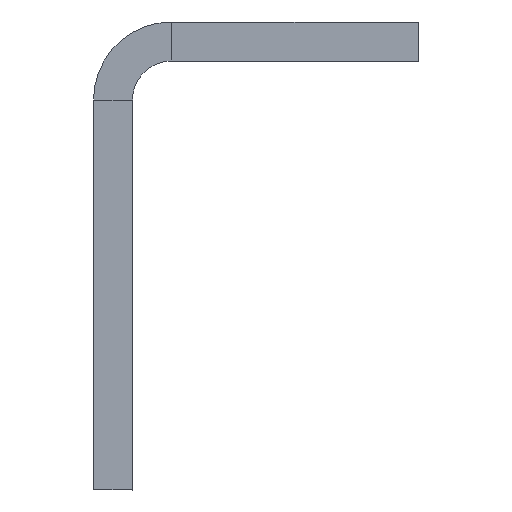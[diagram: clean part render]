
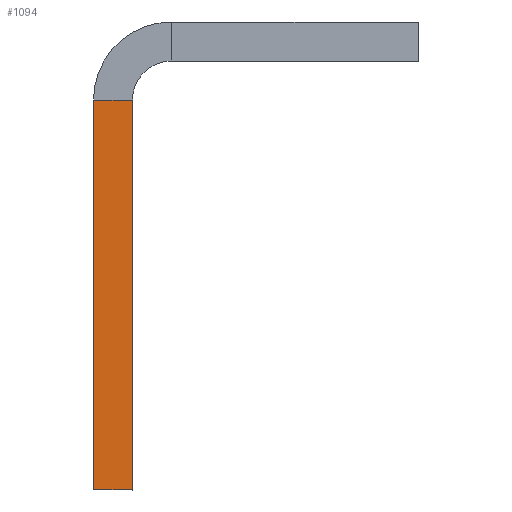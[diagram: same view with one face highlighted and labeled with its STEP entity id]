
A CAD part, left-side view. The second image highlights one B-rep face of the part: STEP entity #1094.
In plain terms, the highlighted planar face has unit normal (-1, 0, 0).
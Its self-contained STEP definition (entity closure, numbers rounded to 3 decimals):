
#68 = VERTEX_POINT ( 'NONE', #3439 ) ;
#155 = CARTESIAN_POINT ( 'NONE',  ( -620.5, 50., 0. ) ) ;
#196 = CARTESIAN_POINT ( 'NONE',  ( -620.5, 50., -6. ) ) ;
#214 = CARTESIAN_POINT ( 'NONE',  ( -620.5, 44., -3. ) ) ;
#440 = DIRECTION ( 'NONE',  ( 0., 0., -1. ) ) ;
#491 = ORIENTED_EDGE ( 'NONE', *, *, #677, .T. ) ;
#577 = VERTEX_POINT ( 'NONE', #2370 ) ;
#677 = EDGE_CURVE ( 'NONE', #1683, #68, #2999, .T. ) ;
#762 = ORIENTED_EDGE ( 'NONE', *, *, #2687, .F. ) ;
#842 = ORIENTED_EDGE ( 'NONE', *, *, #2711, .F. ) ;
#1023 = CARTESIAN_POINT ( 'NONE',  ( -620.5, 47., -36. ) ) ;
#1094 = ADVANCED_FACE ( 'NONE', ( #1822 ), #2796, .T. ) ;
#1188 = LINE ( 'NONE', #3411, #1745 ) ;
#1324 = DIRECTION ( 'NONE',  ( 0., -1., 0. ) ) ;
#1366 = DIRECTION ( 'NONE',  ( -1., 0., 0. ) ) ;
#1436 = LINE ( 'NONE', #3459, #3491 ) ;
#1563 = ORIENTED_EDGE ( 'NONE', *, *, #3342, .F. ) ;
#1683 = VERTEX_POINT ( 'NONE', #2787 ) ;
#1745 = VECTOR ( 'NONE', #3461, 1000. ) ;
#1822 = FACE_OUTER_BOUND ( 'NONE', #2732, .T. ) ;
#1925 = VECTOR ( 'NONE', #1324, 1000. ) ;
#1962 = VECTOR ( 'NONE', #440, 1000. ) ;
#2370 = CARTESIAN_POINT ( 'NONE',  ( -620.5, 47., -6. ) ) ;
#2517 = VERTEX_POINT ( 'NONE', #1023 ) ;
#2528 = LINE ( 'NONE', #196, #1925 ) ;
#2687 = EDGE_CURVE ( 'NONE', #1683, #577, #2528, .T. ) ;
#2711 = EDGE_CURVE ( 'NONE', #2517, #68, #1436, .T. ) ;
#2732 = EDGE_LOOP ( 'NONE', ( #491, #842, #1563, #762 ) ) ;
#2787 = CARTESIAN_POINT ( 'NONE',  ( -620.5, 50., -6. ) ) ;
#2796 = PLANE ( 'NONE',  #3480 ) ;
#2999 = LINE ( 'NONE', #155, #1962 ) ;
#3171 = DIRECTION ( 'NONE',  ( 0., 1., 0. ) ) ;
#3342 = EDGE_CURVE ( 'NONE', #577, #2517, #1188, .T. ) ;
#3411 = CARTESIAN_POINT ( 'NONE',  ( -620.5, 47., 0. ) ) ;
#3439 = CARTESIAN_POINT ( 'NONE',  ( -620.5, 50., -36. ) ) ;
#3459 = CARTESIAN_POINT ( 'NONE',  ( -620.5, 47., -36. ) ) ;
#3461 = DIRECTION ( 'NONE',  ( 0., 0., -1. ) ) ;
#3480 = AXIS2_PLACEMENT_3D ( 'NONE', #214, #1366, #3638 ) ;
#3491 = VECTOR ( 'NONE', #3171, 1000. ) ;
#3638 = DIRECTION ( 'NONE',  ( 0., 0., 1. ) ) ;
